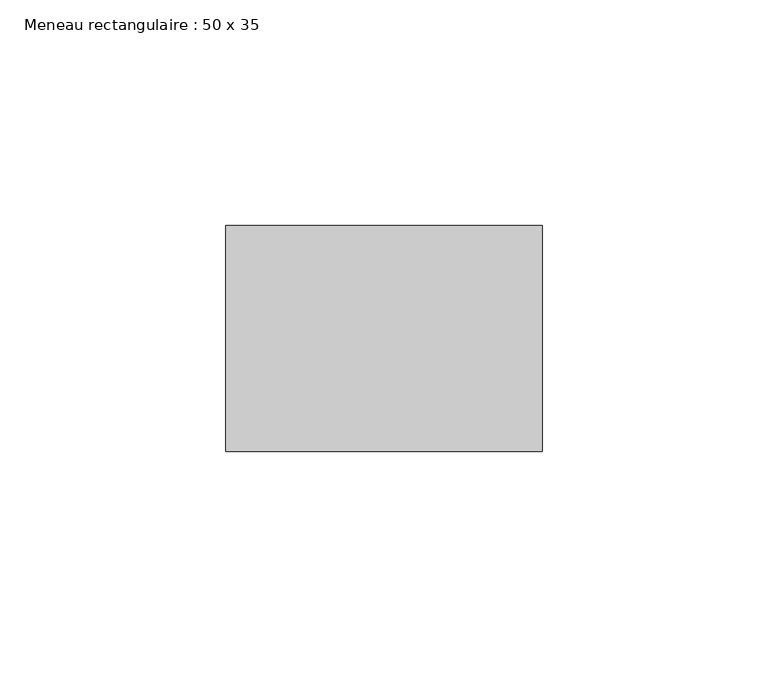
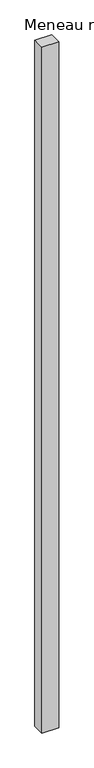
"""IFC4 building model written with IfcOpenShell, lengths in millimetres: member geometry, Meneau rectangulaire : 50 x 35."""

from ifc_helpers import new_model, si_unit, frame, origin, place, context, project, spatial, polyline, outline, extrude, source, transform, mapped, element, save


def meneau_rectangulaire_50_x_35_063ab811(model_context):
    return source(origin(), model_context, "Body", "SweptSolid", [
        extrude(outline(polyline([(0.0, 0.0), (0.0, -50.0), (-70.0, -50.0), (-70.0, 0.0), (0.0, 0.0)])), frame((0.0, 0.0, -3014.7456561), z_axis=(0.0, 0.0, 1.0), x_axis=(1.0, 0.0, 0.0)), (0.0, 0.0, 1.0), 3014.7456561),
    ])


if __name__ == "__main__":
    model = new_model("IFC4")
    model_context = context("Model", 3, world=origin())
    ifc_project = project(units=[si_unit("LENGTHUNIT", "METRE", prefix="MILLI")], contexts=[model_context])
    site = spatial("IfcSite", under=ifc_project)
    building = spatial("IfcBuilding", under=site)
    placement = place(None, origin())
    meneau_rectangulaire_50_x_35_shape = meneau_rectangulaire_50_x_35_063ab811(model_context)
    element("IfcMember", 1, ObjectType="Meneau rectangulaire : 50 x 35", at=placement, inside=building, context=model_context, shape_type="MappedRepresentation", body=[
        mapped(meneau_rectangulaire_50_x_35_shape, transform((0.0, 0.0, 0.0), x_axis=(1.0, 0.0, 0.0), y_axis=(0.0, 1.0, 0.0), z_axis=(0.0, 0.0, 1.0))),
    ])
    save(model, "model.ifc")
